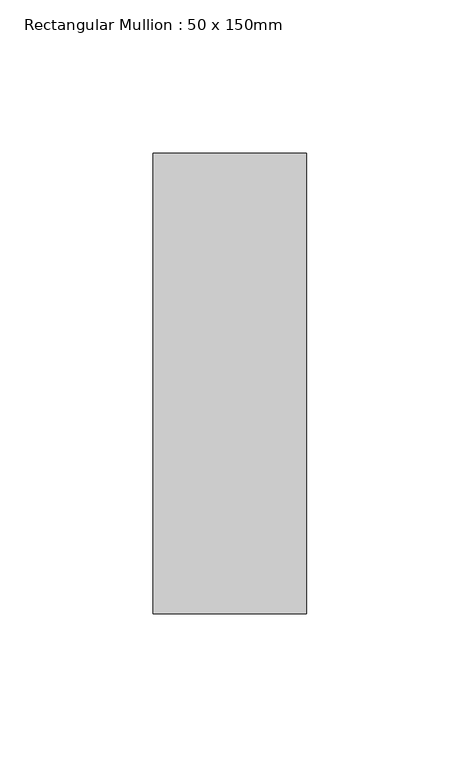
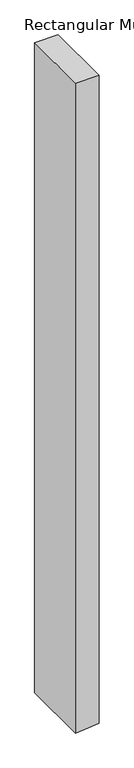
"""IFC4 building model written with IfcOpenShell, lengths in millimetres: member geometry, Rectangular Mullion : 50 x 150mm."""

from ifc_helpers import new_model, si_unit, frame, origin, place, context, project, spatial, polyline, outline, extrude, source, transform, mapped, element, save


def rectangular_mullion_50_x_150mm_4a701a23(model_context):
    return source(origin(), model_context, "Body", "SweptSolid", [
        extrude(outline(polyline([(0.0, 25.0), (0.0, -25.0), (-1460.6383789, -25.0), (-1458.6276118, -5.0022633), (-1455.6108922, 25.0), (0.0, 25.0)])), frame((0.0, -75.0, 0.0), z_axis=(0.0, 1.0, 0.0), x_axis=(0.0, 0.0, 1.0)), (0.0, 0.0, 1.0), 150.0),
    ])


if __name__ == "__main__":
    model = new_model("IFC4")
    model_context = context("Model", 3, world=origin())
    ifc_project = project(units=[si_unit("LENGTHUNIT", "METRE", prefix="MILLI")], contexts=[model_context])
    site = spatial("IfcSite", under=ifc_project)
    building = spatial("IfcBuilding", under=site)
    placement = place(None, origin())
    rectangular_mullion_50_x_150mm_shape = rectangular_mullion_50_x_150mm_4a701a23(model_context)
    element("IfcMember", 1, ObjectType="Rectangular Mullion : 50 x 150mm", at=placement, inside=building, context=model_context, shape_type="MappedRepresentation", body=[
        mapped(rectangular_mullion_50_x_150mm_shape, transform((0.0, 0.0, 0.0), x_axis=(1.0, 0.0, 0.0), y_axis=(0.0, 1.0, 0.0), z_axis=(0.0, 0.0, 1.0))),
    ])
    save(model, "model.ifc")
